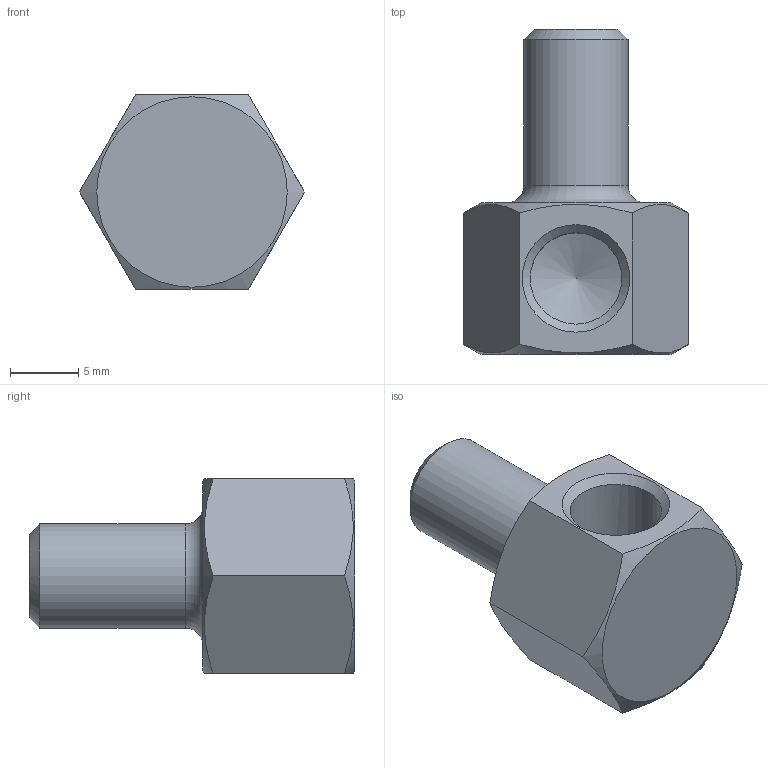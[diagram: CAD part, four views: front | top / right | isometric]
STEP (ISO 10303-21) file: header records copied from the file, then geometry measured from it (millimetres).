
FILE_DESCRIPTION(/* description */ (''),/* implementation_level */ '2;1');
FILE_NAME(/* name */ 'C:/Users/drich/Desktop/M16S-M16SB v1.step',/* time_stamp */ '2019-12-27T18:05:42-06:00',/* author */ (''),/* organization */ (''),/* preprocessor_version */ 'ST-DEVELOPER v18',/* originating_system */ 'Autodesk Translation Framework v8.12.0.6',/* authorisation */ '');
FILE_SCHEMA (('AUTOMOTIVE_DESIGN { 1 0 10303 214 3 1 1 }'));
Length unit declared in the file: inch
Products named in the file (1): M16S-M16SB
Bounding box: 16.48 x 23.8 x 14.27 mm (x, y, z)
Volume: 1884.9 mm3; surface area: 1559.4 mm2
Topology: 1 solids, 1 shells, 19 faces, 48 edges, 32 vertices
Faces by surface type: plane 9, cone 6, cylinder 3, torus 1
Full cylindrical faces by diameter (mm): 4.75 x1, 6.697 x1, 7.616 x1
Entity records: 635 total; most frequent: CARTESIAN_POINT 161, ORIENTED_EDGE 94, DIRECTION 87, EDGE_CURVE 47, AXIS2_PLACEMENT_3D 36, VERTEX_POINT 32, EDGE_LOOP 23, FACE_OUTER_BOUND 19
